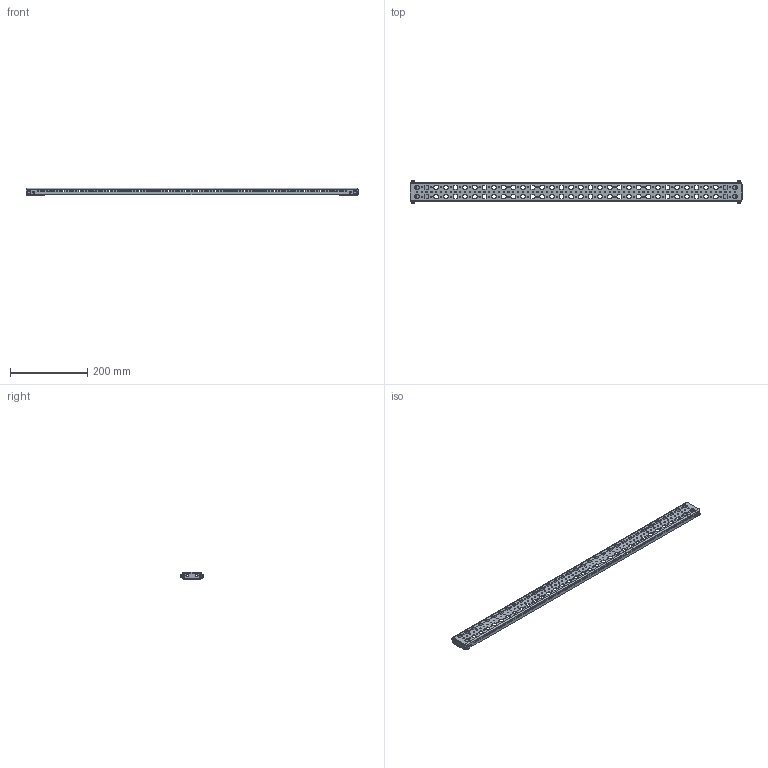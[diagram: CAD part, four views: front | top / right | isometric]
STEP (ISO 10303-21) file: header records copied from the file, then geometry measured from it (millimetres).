
FILE_DESCRIPTION (( 'STEP AP203' ), '1' );
FILE_NAME ('MRD 100.06 L Ðåéêà ìîíòàæíàÿ (äåðæàòåëè ñäâèíóòû).STEP', '2025-05-15T12:16:11', ( '' ), ( '' ), 'SwSTEP 2.0', 'SolidWorks 2019', '' );
FILE_SCHEMA (( 'CONFIG_CONTROL_DESIGN' ));
Length unit declared in the file: millimetre
Products named in the file (4): 妈眚 襦祛磬疱玎栝_4,8x11; MRD 100.06 L Ðåéêà ìîíòàæíàÿ (äåðæàòåëè ñäâèíóòû); MRD X.06.002 L Êðîíøòåéí ðåéêè; MRD X.06.001 L Ðåéêà ìîíòàæíàÿ_MRD 100.06.001 L
Assembly tree (7 placements, depth 2):
  MRD 100.06 L Ðåéêà ìîíòàæíàÿ (äåðæàòåëè ñäâèíóòû)
    MRD X.06.001 L Ðåéêà ìîíòàæíàÿ_MRD 100.06.001 L
    MRD X.06.002 L Êðîíøòåéí ðåéêè  x2
    妈眚 襦祛磬疱玎栝_4,8x11  x4
Bounding box: 861 x 58 x 19.5 mm (x, y, z)
Volume: 124631.6 mm3; surface area: 144344.9 mm2
Topology: 7 solids, 7 shells, 2876 faces, 8502 edges, 5640 vertices
Faces by surface type: cylinder 1630, plane 1202, bspline 24, cone 20
Entity records: 94486 total; most frequent: CARTESIAN_POINT 17210, DIRECTION 16449, ORIENTED_EDGE 16064, EDGE_CURVE 8032, AXIS2_PLACEMENT_3D 5774, VERTEX_POINT 5341, LINE 4901, VECTOR 4901
